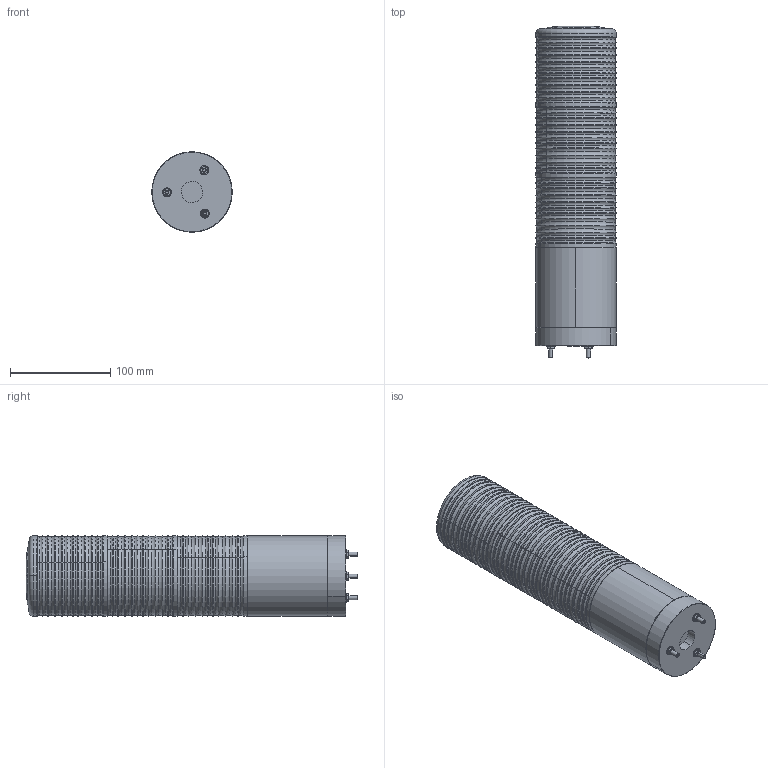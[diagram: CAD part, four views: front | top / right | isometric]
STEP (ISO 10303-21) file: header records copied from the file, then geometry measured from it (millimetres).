
FILE_DESCRIPTION (( 'STEP AP203' ), '1' );
FILE_NAME ('QKR572_3D00185 ST80ML-3-24-RAG 3D紫賊_220823.STEP', '2022-08-23T10:42:36', ( 'QKR_NOTE119' ), ( '' ), 'SwSTEP 2.0', 'SolidWorks 2019', '' );
FILE_SCHEMA (( 'CONFIG_CONTROL_DESIGN' ));
Length unit declared in the file: millimetre
Products named in the file (1): QKR572_3D00185 ST80ML-3-24-RAG 3D紫賊_220823
Bounding box: 80.18 x 331.19 x 80.18 mm (x, y, z)
Volume: 1560333.7 mm3; surface area: 94252.4 mm2
Topology: 1 solids, 5 shells, 407 faces, 851 edges, 467 vertices
Faces by surface type: torus 216, cone 83, plane 60, cylinder 46, sphere 2
Entity records: 11204 total; most frequent: CARTESIAN_POINT 2236, DIRECTION 2189, ORIENTED_EDGE 1698, AXIS2_PLACEMENT_3D 1036, EDGE_CURVE 849, CIRCLE 628, VERTEX_POINT 467, EDGE_LOOP 430
